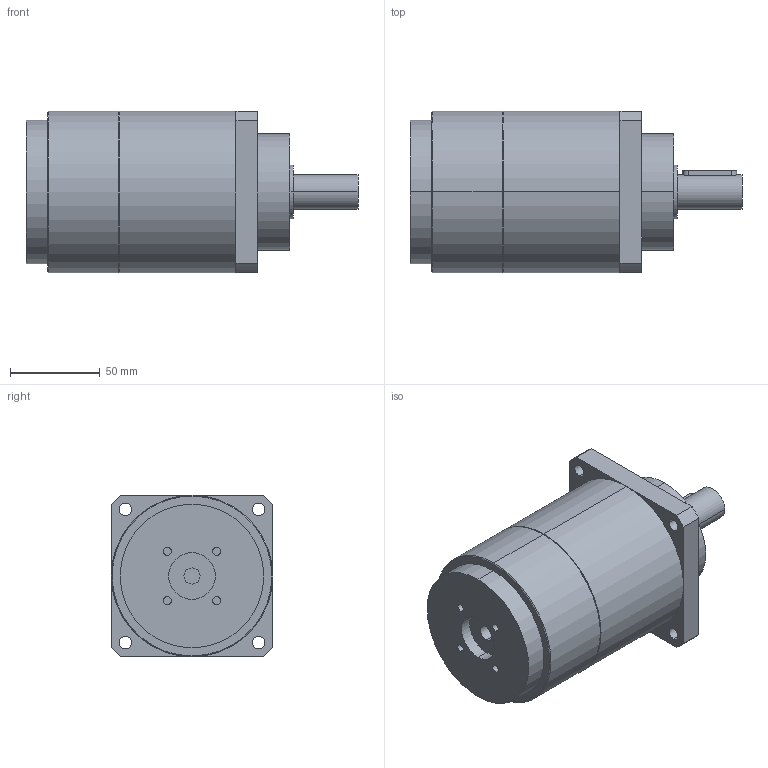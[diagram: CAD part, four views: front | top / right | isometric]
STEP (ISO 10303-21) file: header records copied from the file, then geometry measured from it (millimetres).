
FILE_DESCRIPTION(('CoCreate Modeling STEP Export'),'2;1');
FILE_NAME('GPT90_ig-9-12-16-20-25-28-35-40-50-70-100_19_B5T_9_P09.stp','2015-02-04T11:33:38',(''),(''),'CoCreate Modeling STEP processor for AP214 (Solid Model)','CoCreate Modeling 16.00C 25-Feb-2009 (C) Parametric Technology GmbH','');
FILE_SCHEMA(('AUTOMOTIVE_DESIGN { 1 0 10303 214 1 1 1 1 }'));
Length unit declared in the file: millimetre
Products named in the file (2): GPT90_ig-9-12-16-20-25-28-35-40-50-70-100_19_B5T_9_P09
Assembly tree (1 placements, depth 2):
  GPT90_ig-9-12-16-20-25-28-35-40-50-70-100_19_B5T_9_P09
    GPT90_ig-9-12-16-20-25-28-35-40-50-70-100_19_B5T_9_P09
Bounding box: 185 x 90 x 90 mm (x, y, z)
Volume: 887687.6 mm3; surface area: 62605.7 mm2
Topology: 1 solids, 1 shells, 69 faces, 176 edges, 121 vertices
Faces by surface type: cylinder 40, plane 25, cone 4
Entity records: 2211 total; most frequent: CARTESIAN_POINT 678, ORIENTED_EDGE 352, DIRECTION 260, EDGE_CURVE 176, VERTEX_POINT 121, AXIS2_PLACEMENT_3D 97, EDGE_LOOP 89, FACE_OUTER_BOUND 69
